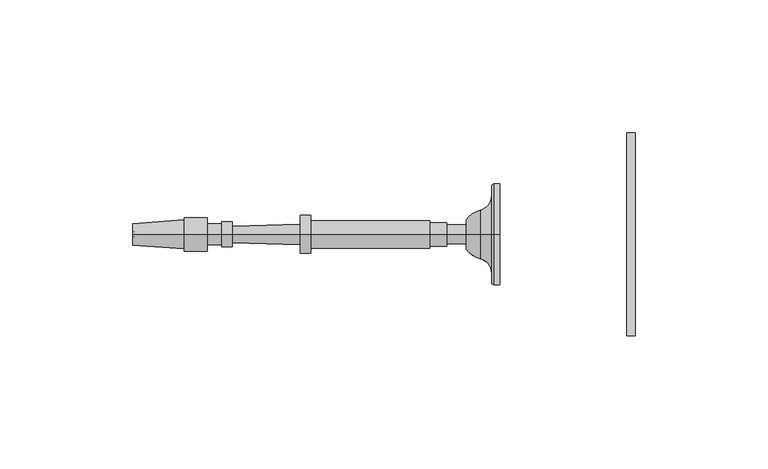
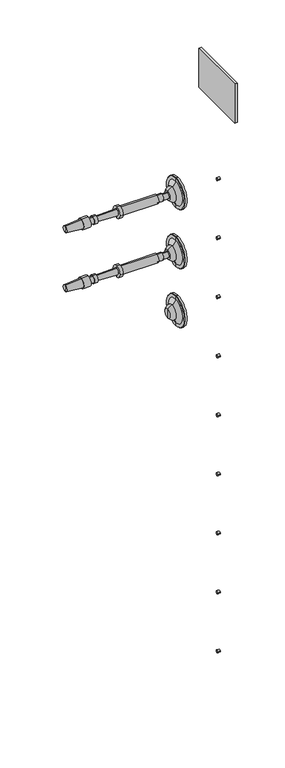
"""IFC4 building model written with IfcOpenShell, lengths in millimetres: railing geometry, RAILEASY CABLE RAILING CORNER TENSIONERS STAIR."""

from ifc_helpers import new_model, si_unit, point, frame, frame_2d, origin, place, context, project, spatial, polyline, circle_curve, ellipse_curve, trimmed, segment, composite_curve, outline, extrude, source, transform, mapped, element, save
from ifc_brep_helpers import plane_surface, cylinder_surface, revolved_surface, advanced_brep


def railing_6aa3b354(model_context):
    return source(origin(), model_context, "Body", "SolidModel", [
        extrude(outline(polyline([(4095.9188898, 20351.1866843), (4095.9188898, 20274.9866843), (4092.7438898, 20274.9866843), (4092.7438898, 20351.1866843), (4095.9188898, 20351.1866843)])), frame((0.0, 0.0, 33390.9789063), z_axis=(0.0, 0.0, 1.0), x_axis=(1.0, 0.0, 0.0)), (0.0, 0.0, 1.0), 50.8),
        extrude(outline(composite_curve([segment(trimmed(circle_curve(frame_2d((20313.0866843, 33295.7289062)), 1.5379197), [point((20311.5487645, 33295.7289062))], [point((20314.624604, 33295.7289062))], False, "CARTESIAN"), True, "CONTINUOUS"), segment(trimmed(circle_curve(frame_2d((20313.0866843, 33295.7289062)), 1.5379197), [point((20314.624604, 33295.7289062))], [point((20311.5487645, 33295.7289062))], False, "CARTESIAN"), True, "CONTINUOUS")], self_intersect=False)), frame((4092.7438898, 0.0, 0.0), z_axis=(1.0, 0.0, 0.0), x_axis=(0.0, 1.0, 0.0)), (0.0, 0.0, 1.0), 3.175),
        extrude(outline(composite_curve([segment(trimmed(circle_curve(frame_2d((20313.0866843, 33219.5289063)), 1.5379197), [point((20311.5487645, 33219.5289063))], [point((20314.624604, 33219.5289063))], False, "CARTESIAN"), True, "CONTINUOUS"), segment(trimmed(circle_curve(frame_2d((20313.0866843, 33219.5289063)), 1.5379197), [point((20314.624604, 33219.5289063))], [point((20311.5487645, 33219.5289063))], False, "CARTESIAN"), True, "CONTINUOUS")], self_intersect=False)), frame((4092.7438898, 0.0, 0.0), z_axis=(1.0, 0.0, 0.0), x_axis=(0.0, 1.0, 0.0)), (0.0, 0.0, 1.0), 3.175),
        extrude(outline(composite_curve([segment(trimmed(circle_curve(frame_2d((20313.0866843, 33143.3289062)), 1.5379197), [point((20311.5487645, 33143.3289062))], [point((20314.624604, 33143.3289062))], False, "CARTESIAN"), True, "CONTINUOUS"), segment(trimmed(circle_curve(frame_2d((20313.0866843, 33143.3289062)), 1.5379197), [point((20314.624604, 33143.3289062))], [point((20311.5487645, 33143.3289062))], False, "CARTESIAN"), True, "CONTINUOUS")], self_intersect=False)), frame((4092.7438898, 0.0, 0.0), z_axis=(1.0, 0.0, 0.0), x_axis=(0.0, 1.0, 0.0)), (0.0, 0.0, 1.0), 3.175),
        extrude(outline(composite_curve([segment(trimmed(circle_curve(frame_2d((20313.0866843, 33067.1289062)), 1.5379197), [point((20311.5487645, 33067.1289062))], [point((20314.624604, 33067.1289062))], False, "CARTESIAN"), True, "CONTINUOUS"), segment(trimmed(circle_curve(frame_2d((20313.0866843, 33067.1289062)), 1.5379197), [point((20314.624604, 33067.1289062))], [point((20311.5487645, 33067.1289062))], False, "CARTESIAN"), True, "CONTINUOUS")], self_intersect=False)), frame((4092.7438898, 0.0, 0.0), z_axis=(1.0, 0.0, 0.0), x_axis=(0.0, 1.0, 0.0)), (0.0, 0.0, 1.0), 3.175),
        extrude(outline(composite_curve([segment(trimmed(circle_curve(frame_2d((20313.0866843, 32990.9289062)), 1.5379197), [point((20311.5487645, 32990.9289062))], [point((20314.624604, 32990.9289062))], False, "CARTESIAN"), True, "CONTINUOUS"), segment(trimmed(circle_curve(frame_2d((20313.0866843, 32990.9289062)), 1.5379197), [point((20314.624604, 32990.9289062))], [point((20311.5487645, 32990.9289062))], False, "CARTESIAN"), True, "CONTINUOUS")], self_intersect=False)), frame((4092.7438898, 0.0, 0.0), z_axis=(1.0, 0.0, 0.0), x_axis=(0.0, 1.0, 0.0)), (0.0, 0.0, 1.0), 3.175),
        extrude(outline(composite_curve([segment(trimmed(circle_curve(frame_2d((20313.0866843, 32914.7289062)), 1.5379197), [point((20311.5487645, 32914.7289062))], [point((20314.624604, 32914.7289062))], False, "CARTESIAN"), True, "CONTINUOUS"), segment(trimmed(circle_curve(frame_2d((20313.0866843, 32914.7289062)), 1.5379197), [point((20314.624604, 32914.7289062))], [point((20311.5487645, 32914.7289062))], False, "CARTESIAN"), True, "CONTINUOUS")], self_intersect=False)), frame((4092.7438898, 0.0, 0.0), z_axis=(1.0, 0.0, 0.0), x_axis=(0.0, 1.0, 0.0)), (0.0, 0.0, 1.0), 3.175),
        extrude(outline(composite_curve([segment(trimmed(circle_curve(frame_2d((20313.0866843, 32838.5289063)), 1.5379197), [point((20311.5487645, 32838.5289063))], [point((20314.624604, 32838.5289063))], False, "CARTESIAN"), True, "CONTINUOUS"), segment(trimmed(circle_curve(frame_2d((20313.0866843, 32838.5289063)), 1.5379197), [point((20314.624604, 32838.5289063))], [point((20311.5487645, 32838.5289063))], False, "CARTESIAN"), True, "CONTINUOUS")], self_intersect=False)), frame((4092.7438898, 0.0, 0.0), z_axis=(1.0, 0.0, 0.0), x_axis=(0.0, 1.0, 0.0)), (0.0, 0.0, 1.0), 3.175),
        extrude(outline(composite_curve([segment(trimmed(circle_curve(frame_2d((20313.0866843, 32762.3289062)), 1.5379197), [point((20311.5487645, 32762.3289062))], [point((20314.624604, 32762.3289062))], False, "CARTESIAN"), True, "CONTINUOUS"), segment(trimmed(circle_curve(frame_2d((20313.0866843, 32762.3289062)), 1.5379197), [point((20314.624604, 32762.3289062))], [point((20311.5487645, 32762.3289062))], False, "CARTESIAN"), True, "CONTINUOUS")], self_intersect=False)), frame((4092.7438898, 0.0, 0.0), z_axis=(1.0, 0.0, 0.0), x_axis=(0.0, 1.0, 0.0)), (0.0, 0.0, 1.0), 3.175),
        extrude(outline(composite_curve([segment(trimmed(circle_curve(frame_2d((20313.0866843, 32686.1289062)), 1.5379197), [point((20311.5487645, 32686.1289062))], [point((20314.624604, 32686.1289062))], False, "CARTESIAN"), True, "CONTINUOUS"), segment(trimmed(circle_curve(frame_2d((20313.0866843, 32686.1289062)), 1.5379197), [point((20314.624604, 32686.1289062))], [point((20311.5487645, 32686.1289062))], False, "CARTESIAN"), True, "CONTINUOUS")], self_intersect=False)), frame((4092.7438898, 0.0, 0.0), z_axis=(1.0, 0.0, 0.0), x_axis=(0.0, 1.0, 0.0)), (0.0, 0.0, 1.0), 3.175),
        advanced_brep(
        [(4045.1015906, 20313.0866843, 33296.0001631), (4045.1015906, 20313.0866843, 33276.9501631), (4045.1015906, 20313.0866843, 33315.0501631), (4032.408954, 20313.0866843, 33290.4769785), (4032.408954, 20313.0866843, 33296.0001631), (4032.408954, 20313.0866843, 33301.5233478), (4037.6850504, 20313.0866843, 33286.8720381), (4037.6850504, 20313.0866843, 33305.1282881), (4042.0506754, 20313.0866843, 33281.2458254), (4042.0506754, 20313.0866843, 33310.7545009), (4042.0506754, 20313.0866843, 33277.3762941), (4042.0506754, 20313.0866843, 33314.6240321), (4042.7203406, 20313.0866843, 33276.9501631), (4042.7203406, 20313.0866843, 33315.0501631)],
        [
            (0, 1),
            (1, 2, circle_curve(frame((4045.1015906, 20313.0866843, 33296.0001631), z_axis=(1.0, 0.0, 0.0), x_axis=(0.0, 0.0, 1.0)), 19.05)),
            (2, 0),
            (2, 1, circle_curve(frame((4045.1015906, 20313.0866843, 33296.0001631), z_axis=(1.0, 0.0, 0.0), x_axis=(0.0, 0.0, 1.0)), 19.05)),
            (3, 4),
            (4, 5),
            (5, 3, circle_curve(frame((4032.408954, 20313.0866843, 33296.0001631), z_axis=(-1.0, 0.0, 0.0), x_axis=(0.0, 0.0, 1.0)), 5.5231846)),
            (3, 5, circle_curve(frame((4032.408954, 20313.0866843, 33296.0001631), z_axis=(-1.0, 0.0, 0.0), x_axis=(0.0, 0.0, 1.0)), 5.5231846)),
            (6, 3, circle_curve(frame((4040.0094591, 20313.0866843, 33295.9374304), z_axis=(0.0, 1.0, 0.0), x_axis=(-1.0, 0.0, 0.0)), 9.3586438)),
            (5, 7, circle_curve(frame((4040.0094591, 20313.0866843, 33296.0628958), z_axis=(0.0, 1.0, 0.0), x_axis=(-1.0, 0.0, 0.0)), 9.3586438)),
            (7, 6, circle_curve(frame((4037.6850504, 20313.0866843, 33296.0001631), z_axis=(-1.0, 0.0, 0.0), x_axis=(0.0, 0.0, 1.0)), 9.128125)),
            (6, 7, circle_curve(frame((4037.6850504, 20313.0866843, 33296.0001631), z_axis=(-1.0, 0.0, 0.0), x_axis=(0.0, 0.0, 1.0)), 9.128125)),
            (8, 6, circle_curve(frame((4036.2424634, 20313.0866843, 33281.2458254), z_axis=(0.0, -1.0, 0.0), x_axis=(-1.0, 0.0, 0.0)), 5.8082121)),
            (7, 9, circle_curve(frame((4036.2424634, 20313.0866843, 33310.7545009), z_axis=(0.0, -1.0, 0.0), x_axis=(-1.0, 0.0, 0.0)), 5.8082121)),
            (9, 8, circle_curve(frame((4042.0506754, 20313.0866843, 33296.0001631), z_axis=(-1.0, 0.0, 0.0), x_axis=(0.0, 0.0, 1.0)), 14.7543378)),
            (8, 9, circle_curve(frame((4042.0506754, 20313.0866843, 33296.0001631), z_axis=(-1.0, 0.0, 0.0), x_axis=(0.0, 0.0, 1.0)), 14.7543378)),
            (10, 8),
            (9, 11),
            (11, 10, circle_curve(frame((4042.0506754, 20313.0866843, 33296.0001631), z_axis=(-1.0, 0.0, 0.0), x_axis=(0.0, 0.0, 1.0)), 18.623869)),
            (10, 11, circle_curve(frame((4042.0506754, 20313.0866843, 33296.0001631), z_axis=(-1.0, 0.0, 0.0), x_axis=(0.0, 0.0, 1.0)), 18.623869)),
            (12, 10),
            (11, 13),
            (13, 12, circle_curve(frame((4042.7203406, 20313.0866843, 33296.0001631), z_axis=(-1.0, 0.0, 0.0), x_axis=(0.0, 0.0, 1.0)), 19.05)),
            (12, 13, circle_curve(frame((4042.7203406, 20313.0866843, 33296.0001631), z_axis=(-1.0, 0.0, 0.0), x_axis=(0.0, 0.0, 1.0)), 19.05)),
            (1, 12),
            (13, 2),
        ],
        [
            plane_surface(frame((4045.1015906, 20313.0866843, 33296.0001631), z_axis=(1.0, 0.0, 0.0), x_axis=(0.0, 0.0, 1.0))),
            plane_surface(frame((4032.408954, 20313.0866843, 33296.0001631), z_axis=(-1.0, 0.0, 0.0), x_axis=(0.0, 0.0, 1.0))),
            revolved_surface(trimmed(ellipse_curve(frame((4040.0094591, 20313.0866843, 33296.0628958), z_axis=(0.0, 1.0, 0.0), x_axis=(-1.0, 0.0, 0.0)), 9.3586438, 9.3586438), [point((4032.408954, 20313.0866843, 33301.5233478))], [point((4037.6850504, 20313.0866843, 33305.1282881))], True, "CARTESIAN"), (4045.1015906, 20313.0866843, 33296.0001631), (1.0, 0.0, 0.0)),
            revolved_surface(trimmed(ellipse_curve(frame((4036.2424634, 20313.0866843, 33310.7545009), z_axis=(0.0, -1.0, 0.0), x_axis=(-1.0, 0.0, 0.0)), 5.8082121, 5.8082121), [point((4037.6850504, 20313.0866843, 33305.1282881))], [point((4042.0506754, 20313.0866843, 33310.7545009))], True, "CARTESIAN"), (4045.1015906, 20313.0866843, 33296.0001631), (1.0, 0.0, 0.0)),
            plane_surface(frame((4042.0506754, 20313.0866843, 33296.0001631), z_axis=(-1.0, 0.0, 0.0), x_axis=(0.0, 0.0, 1.0))),
            revolved_surface(polyline([(4042.0506754, 20313.0866843, 33314.6240321), (4042.7203406, 20313.0866843, 33315.0501631)]), (4045.1015906, 20313.0866843, 33296.0001631), (1.0, 0.0, 0.0)),
            cylinder_surface(frame((4045.1015906, 20313.0866843, 33296.0001631), z_axis=(1.0, 0.0, 0.0), x_axis=(0.0, 0.0, 1.0)), 19.05),
        ],
        [
            (0, [[1, 2, 3]]),
            (0, [[-3, 4, -1]]),
            (1, [[5, 6, 7]]),
            (1, [[-6, -5, 8]]),
            (2, [[9, -7, 10, 11]]),
            (2, [[-10, -8, -9, 12]]),
            (3, [[13, -11, 14, 15]]),
            (3, [[-14, -12, -13, 16]]),
            (4, [[17, -15, 18, 19]]),
            (4, [[-18, -16, -17, 20]]),
            (5, [[21, -19, 22, 23]]),
            (5, [[-22, -20, -21, 24]]),
            (6, [[25, -23, 26, -2]]),
            (6, [[-26, -24, -25, -4]]),
        ],
    ),
        advanced_brep(
        [(4032.408954, 20313.0866843, 33292.4282881), (4032.408954, 20313.0866843, 33299.5720381), (4032.408954, 20313.0866843, 33296.0001631), (3907.4650648, 20313.0866843, 33296.0001631), (3907.1694004, 20313.0866843, 33300.0246235), (3907.1694004, 20313.0866843, 33291.9757028), (3926.5127644, 20313.0866843, 33301.445719), (3926.5127644, 20313.0866843, 33290.5546072), (3926.5127644, 20313.0866843, 33302.3386877), (3926.5127644, 20313.0866843, 33289.6616385), (3935.1447956, 20313.0866843, 33302.3386877), (3935.1447956, 20313.0866843, 33289.6616385), (3935.1447956, 20313.0866843, 33299.9574377), (3935.1447956, 20313.0866843, 33292.0428885), (3940.5026081, 20313.0866843, 33299.9574377), (3940.5026081, 20313.0866843, 33292.0428885), (3940.5026081, 20313.0866843, 33300.7511877), (3940.5026081, 20313.0866843, 33291.2491385), (3944.5705769, 20313.0866843, 33300.7511877), (3944.5705769, 20313.0866843, 33291.2491385), (3944.614664, 20313.0866843, 33299.1643), (3944.614664, 20313.0866843, 33292.8360262), (3970.0048672, 20313.0866843, 33299.8696944), (3970.0048672, 20313.0866843, 33292.1306319), (3970.0048672, 20313.0866843, 33303.1439131), (3970.0048672, 20313.0866843, 33288.8564131), (3973.9736172, 20313.0866843, 33303.1439131), (3973.9736172, 20313.0866843, 33288.8564131), (3973.9736172, 20313.0866843, 33301.1595381), (3973.9736172, 20313.0866843, 33290.8407881), (4018.7212735, 20313.0866843, 33301.1595381), (4018.7212735, 20313.0866843, 33290.8407881), (4018.7212735, 20313.0866843, 33300.3657881), (4018.7212735, 20313.0866843, 33291.6345381), (4025.0712735, 20313.0866843, 33300.3657881), (4025.0712735, 20313.0866843, 33291.6345381), (4025.0712735, 20313.0866843, 33299.5720381), (4025.0712735, 20313.0866843, 33292.4282881)],
        [
            (0, 1, circle_curve(frame((4032.408954, 20313.0866843, 33296.0001631), z_axis=(1.0, 0.0, 0.0), x_axis=(0.0, 0.0, 1.0000000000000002)), 3.571875)),
            (1, 2),
            (2, 0),
            (1, 0, circle_curve(frame((4032.408954, 20313.0866843, 33296.0001631), z_axis=(1.0, 0.0, 0.0), x_axis=(0.0, 0.0, 1.0000000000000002)), 3.571875)),
            (3, 4),
            (4, 5, circle_curve(frame((3907.1694004, 20313.0866843, 33296.0001631), z_axis=(-1.0, 0.0, 0.0), x_axis=(0.0, 0.0, 1.0000000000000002)), 4.0244604)),
            (5, 3),
            (5, 4, circle_curve(frame((3907.1694004, 20313.0866843, 33296.0001631), z_axis=(-1.0, 0.0, 0.0), x_axis=(0.0, 0.0, 1.0000000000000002)), 4.0244604)),
            (4, 6),
            (6, 7, circle_curve(frame((3926.5127644, 20313.0866843, 33296.0001631), z_axis=(-1.0, 0.0, 0.0), x_axis=(0.0, 0.0, 1.0000000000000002)), 5.4455559)),
            (7, 5),
            (7, 6, circle_curve(frame((3926.5127644, 20313.0866843, 33296.0001631), z_axis=(-1.0, 0.0, 0.0), x_axis=(0.0, 0.0, 1.0000000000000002)), 5.4455559)),
            (6, 8),
            (8, 9, circle_curve(frame((3926.5127644, 20313.0866843, 33296.0001631), z_axis=(-1.0, 0.0, 0.0), x_axis=(0.0, 0.0, 1.0000000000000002)), 6.3385246)),
            (9, 7),
            (9, 8, circle_curve(frame((3926.5127644, 20313.0866843, 33296.0001631), z_axis=(-1.0, 0.0, 0.0), x_axis=(0.0, 0.0, 1.0000000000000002)), 6.3385246)),
            (8, 10),
            (10, 11, circle_curve(frame((3935.1447956, 20313.0866843, 33296.0001631), z_axis=(-1.0, 0.0, 0.0), x_axis=(0.0, 0.0, 1.0000000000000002)), 6.3385246)),
            (11, 9),
            (11, 10, circle_curve(frame((3935.1447956, 20313.0866843, 33296.0001631), z_axis=(-1.0, 0.0, 0.0), x_axis=(0.0, 0.0, 1.0000000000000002)), 6.3385246)),
            (10, 12),
            (12, 13, circle_curve(frame((3935.1447956, 20313.0866843, 33296.0001631), z_axis=(-1.0, 0.0, 0.0), x_axis=(0.0, 0.0, 1.0000000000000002)), 3.9572746)),
            (13, 11),
            (13, 12, circle_curve(frame((3935.1447956, 20313.0866843, 33296.0001631), z_axis=(-1.0, 0.0, 0.0), x_axis=(0.0, 0.0, 1.0000000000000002)), 3.9572746)),
            (12, 14),
            (14, 15, circle_curve(frame((3940.5026081, 20313.0866843, 33296.0001631), z_axis=(-1.0, 0.0, 0.0), x_axis=(0.0, 0.0, 1.0000000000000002)), 3.9572746)),
            (15, 13),
            (15, 14, circle_curve(frame((3940.5026081, 20313.0866843, 33296.0001631), z_axis=(-1.0, 0.0, 0.0), x_axis=(0.0, 0.0, 1.0000000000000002)), 3.9572746)),
            (14, 16),
            (16, 17, circle_curve(frame((3940.5026081, 20313.0866843, 33296.0001631), z_axis=(-1.0, 0.0, 0.0), x_axis=(0.0, 0.0, 1.0000000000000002)), 4.7510246)),
            (17, 15),
            (17, 16, circle_curve(frame((3940.5026081, 20313.0866843, 33296.0001631), z_axis=(-1.0, 0.0, 0.0), x_axis=(0.0, 0.0, 1.0000000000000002)), 4.7510246)),
            (16, 18),
            (18, 19, circle_curve(frame((3944.5705769, 20313.0866843, 33296.0001631), z_axis=(-1.0, 0.0, 0.0), x_axis=(0.0, 0.0, 1.0000000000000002)), 4.7510246)),
            (19, 17),
            (19, 18, circle_curve(frame((3944.5705769, 20313.0866843, 33296.0001631), z_axis=(-1.0, 0.0, 0.0), x_axis=(0.0, 0.0, 1.0000000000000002)), 4.7510246)),
            (18, 20),
            (20, 21, circle_curve(frame((3944.614664, 20313.0866843, 33296.0001631), z_axis=(-1.0, 0.0, 0.0), x_axis=(0.0, 0.0, 1.0000000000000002)), 3.1641369)),
            (21, 19),
            (21, 20, circle_curve(frame((3944.614664, 20313.0866843, 33296.0001631), z_axis=(-1.0, 0.0, 0.0), x_axis=(0.0, 0.0, 1.0000000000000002)), 3.1641369)),
            (20, 22),
            (22, 23, circle_curve(frame((3970.0048672, 20313.0866843, 33296.0001631), z_axis=(-1.0, 0.0, 0.0), x_axis=(0.0, 0.0, 1.0000000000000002)), 3.8695313)),
            (23, 21),
            (23, 22, circle_curve(frame((3970.0048672, 20313.0866843, 33296.0001631), z_axis=(-1.0, 0.0, 0.0), x_axis=(0.0, 0.0, 1.0000000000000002)), 3.8695313)),
            (22, 24),
            (24, 25, circle_curve(frame((3970.0048672, 20313.0866843, 33296.0001631), z_axis=(-1.0, 0.0, 0.0), x_axis=(0.0, 0.0, 1.0000000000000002)), 7.14375)),
            (25, 23),
            (25, 24, circle_curve(frame((3970.0048672, 20313.0866843, 33296.0001631), z_axis=(-1.0, 0.0, 0.0), x_axis=(0.0, 0.0, 1.0000000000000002)), 7.14375)),
            (24, 26),
            (26, 27, circle_curve(frame((3973.9736172, 20313.0866843, 33296.0001631), z_axis=(-1.0, 0.0, 0.0), x_axis=(0.0, 0.0, 1.0000000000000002)), 7.14375)),
            (27, 25),
            (27, 26, circle_curve(frame((3973.9736172, 20313.0866843, 33296.0001631), z_axis=(-1.0, 0.0, 0.0), x_axis=(0.0, 0.0, 1.0000000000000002)), 7.14375)),
            (26, 28),
            (28, 29, circle_curve(frame((3973.9736172, 20313.0866843, 33296.0001631), z_axis=(-1.0, 0.0, 0.0), x_axis=(0.0, 0.0, 1.0000000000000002)), 5.159375)),
            (29, 27),
            (29, 28, circle_curve(frame((3973.9736172, 20313.0866843, 33296.0001631), z_axis=(-1.0, 0.0, 0.0), x_axis=(0.0, 0.0, 1.0000000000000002)), 5.159375)),
            (28, 30),
            (30, 31, circle_curve(frame((4018.7212735, 20313.0866843, 33296.0001631), z_axis=(-1.0, 0.0, 0.0), x_axis=(0.0, 0.0, 1.0000000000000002)), 5.159375)),
            (31, 29),
            (31, 30, circle_curve(frame((4018.7212735, 20313.0866843, 33296.0001631), z_axis=(-1.0, 0.0, 0.0), x_axis=(0.0, 0.0, 1.0000000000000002)), 5.159375)),
            (30, 32),
            (32, 33, circle_curve(frame((4018.7212735, 20313.0866843, 33296.0001631), z_axis=(-1.0, 0.0, 0.0), x_axis=(0.0, 0.0, 1.0000000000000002)), 4.365625)),
            (33, 31),
            (33, 32, circle_curve(frame((4018.7212735, 20313.0866843, 33296.0001631), z_axis=(-1.0, 0.0, 0.0), x_axis=(0.0, 0.0, 1.0000000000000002)), 4.365625)),
            (32, 34),
            (34, 35, circle_curve(frame((4025.0712735, 20313.0866843, 33296.0001631), z_axis=(-1.0, 0.0, 0.0), x_axis=(0.0, 0.0, 1.0000000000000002)), 4.365625)),
            (35, 33),
            (35, 34, circle_curve(frame((4025.0712735, 20313.0866843, 33296.0001631), z_axis=(-1.0, 0.0, 0.0), x_axis=(0.0, 0.0, 1.0000000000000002)), 4.365625)),
            (34, 36),
            (36, 37, circle_curve(frame((4025.0712735, 20313.0866843, 33296.0001631), z_axis=(-1.0, 0.0, 0.0), x_axis=(0.0, 0.0, 1.0000000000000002)), 3.571875)),
            (37, 35),
            (37, 36, circle_curve(frame((4025.0712735, 20313.0866843, 33296.0001631), z_axis=(-1.0, 0.0, 0.0), x_axis=(0.0, 0.0, 1.0000000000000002)), 3.571875)),
            (36, 1),
            (0, 37),
        ],
        [
            plane_surface(frame((4032.408954, 20313.0866843, 33296.0001631), z_axis=(1.0, 0.0, 0.0), x_axis=(0.0, 0.0, 1.0))),
            revolved_surface(polyline([(3907.1694004, 20313.0866843, 33300.0246235), (3907.4650648, 20313.0866843, 33296.0001631)]), (3907.4650648, 20313.0866843, 33296.0001631), (-1.0, 0.0, 0.0)),
            revolved_surface(polyline([(3926.5127644, 20313.0866843, 33301.445719), (3907.1694004, 20313.0866843, 33300.0246235)]), (3907.4650648, 20313.0866843, 33296.0001631), (-1.0, 0.0, 0.0)),
            plane_surface(frame((3926.5127644, 20313.0866843, 33296.0001631), z_axis=(-1.0, 0.0, 0.0), x_axis=(0.0, 0.0, 1.0))),
            cylinder_surface(frame((3907.4650648, 20313.0866843, 33296.0001631), z_axis=(-1.0, 0.0, 0.0), x_axis=(0.0, 0.0, 1.0000000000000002)), 6.3385246),
            plane_surface(frame((3935.1447956, 20313.0866843, 33296.0001631), z_axis=(1.0, 0.0, 0.0), x_axis=(0.0, 0.0, 1.0))),
            cylinder_surface(frame((3907.4650648, 20313.0866843, 33296.0001631), z_axis=(-1.0, 0.0, 0.0), x_axis=(0.0, 0.0, 1.0000000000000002)), 3.9572746),
            plane_surface(frame((3940.5026081, 20313.0866843, 33296.0001631), z_axis=(-1.0, 0.0, 0.0), x_axis=(0.0, 0.0, 1.0))),
            cylinder_surface(frame((3907.4650648, 20313.0866843, 33296.0001631), z_axis=(-1.0, 0.0, 0.0), x_axis=(0.0, 0.0, 1.0000000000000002)), 4.7510246),
            plane_surface(frame((3944.614664, 20313.0866843, 33296.0001631), z_axis=(1.0, 0.0, 0.0), x_axis=(0.0, 0.0, 1.0))),
            revolved_surface(polyline([(3970.0048672, 20313.0866843, 33299.8696944), (3944.614664, 20313.0866843, 33299.1643)]), (3907.4650648, 20313.0866843, 33296.0001631), (-1.0, 0.0, 0.0)),
            plane_surface(frame((3970.0048672, 20313.0866843, 33296.0001631), z_axis=(-1.0, 0.0, 0.0), x_axis=(0.0, 0.0, 1.0))),
            cylinder_surface(frame((3907.4650648, 20313.0866843, 33296.0001631), z_axis=(-1.0, 0.0, 0.0), x_axis=(0.0, 0.0, 1.0000000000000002)), 7.14375),
            plane_surface(frame((3973.9736172, 20313.0866843, 33296.0001631), z_axis=(1.0, 0.0, 0.0), x_axis=(0.0, 0.0, 1.0))),
            cylinder_surface(frame((3907.4650648, 20313.0866843, 33296.0001631), z_axis=(-1.0, 0.0, 0.0), x_axis=(0.0, 0.0, 1.0000000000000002)), 5.159375),
            plane_surface(frame((4018.7212735, 20313.0866843, 33296.0001631), z_axis=(1.0, 0.0, 0.0), x_axis=(0.0, 0.0, 1.0))),
            cylinder_surface(frame((3907.4650648, 20313.0866843, 33296.0001631), z_axis=(-1.0, 0.0, 0.0), x_axis=(0.0, 0.0, 1.0000000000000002)), 4.365625),
            plane_surface(frame((4025.0712735, 20313.0866843, 33296.0001631), z_axis=(1.0, 0.0, 0.0), x_axis=(0.0, 0.0, 1.0))),
            cylinder_surface(frame((3907.4650648, 20313.0866843, 33296.0001631), z_axis=(-1.0, 0.0, 0.0), x_axis=(0.0, 0.0, 1.0000000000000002)), 3.571875),
        ],
        [
            (0, [[1, 2, 3]]),
            (0, [[4, -3, -2]]),
            (1, [[5, 6, 7]]),
            (1, [[-7, 8, -5]]),
            (2, [[-6, 9, 10, 11]]),
            (2, [[-8, -11, 12, -9]]),
            (3, [[-10, 13, 14, 15]]),
            (3, [[-12, -15, 16, -13]]),
            (4, [[-14, 17, 18, 19]]),
            (4, [[-16, -19, 20, -17]]),
            (5, [[-18, 21, 22, 23]]),
            (5, [[-20, -23, 24, -21]]),
            (6, [[-22, 25, 26, 27]]),
            (6, [[-24, -27, 28, -25]]),
            (7, [[-26, 29, 30, 31]]),
            (7, [[-28, -31, 32, -29]]),
            (8, [[-30, 33, 34, 35]]),
            (8, [[-32, -35, 36, -33]]),
            (9, [[-34, 37, 38, 39]]),
            (9, [[-36, -39, 40, -37]]),
            (10, [[-38, 41, 42, 43]]),
            (10, [[-40, -43, 44, -41]]),
            (11, [[-42, 45, 46, 47]]),
            (11, [[-44, -47, 48, -45]]),
            (12, [[-46, 49, 50, 51]]),
            (12, [[-48, -51, 52, -49]]),
            (13, [[-50, 53, 54, 55]]),
            (13, [[-52, -55, 56, -53]]),
            (14, [[-54, 57, 58, 59]]),
            (14, [[-56, -59, 60, -57]]),
            (15, [[-58, 61, 62, 63]]),
            (15, [[-60, -63, 64, -61]]),
            (16, [[-62, 65, 66, 67]]),
            (16, [[-64, -67, 68, -65]]),
            (17, [[-66, 69, 70, 71]]),
            (17, [[-68, -71, 72, -69]]),
            (18, [[-70, 73, -1, 74]]),
            (18, [[-72, -74, -4, -73]]),
        ],
    ),
        advanced_brep(
        [(4045.1015906, 20313.0866843, 33219.8001631), (4045.1015906, 20313.0866843, 33200.7501631), (4045.1015906, 20313.0866843, 33238.8501631), (4032.408954, 20313.0866843, 33214.2769785), (4032.408954, 20313.0866843, 33219.8001631), (4032.408954, 20313.0866843, 33225.3233478), (4037.6850504, 20313.0866843, 33210.6720381), (4037.6850504, 20313.0866843, 33228.9282881), (4042.0506754, 20313.0866843, 33205.0458254), (4042.0506754, 20313.0866843, 33234.5545009), (4042.0506754, 20313.0866843, 33201.1762941), (4042.0506754, 20313.0866843, 33238.4240321), (4042.7203406, 20313.0866843, 33200.7501631), (4042.7203406, 20313.0866843, 33238.8501631)],
        [
            (0, 1),
            (1, 2, circle_curve(frame((4045.1015906, 20313.0866843, 33219.8001631), z_axis=(1.0, 0.0, 0.0), x_axis=(0.0, 0.0, 1.0)), 19.05)),
            (2, 0),
            (2, 1, circle_curve(frame((4045.1015906, 20313.0866843, 33219.8001631), z_axis=(1.0, 0.0, 0.0), x_axis=(0.0, 0.0, 1.0)), 19.05)),
            (3, 4),
            (4, 5),
            (5, 3, circle_curve(frame((4032.408954, 20313.0866843, 33219.8001631), z_axis=(-1.0, 0.0, 0.0), x_axis=(0.0, 0.0, 1.0)), 5.5231846)),
            (3, 5, circle_curve(frame((4032.408954, 20313.0866843, 33219.8001631), z_axis=(-1.0, 0.0, 0.0), x_axis=(0.0, 0.0, 1.0)), 5.5231846)),
            (6, 3, circle_curve(frame((4040.0094591, 20313.0866843, 33219.7374304), z_axis=(0.0, 1.0, 0.0), x_axis=(-1.0, 0.0, 0.0)), 9.3586438)),
            (5, 7, circle_curve(frame((4040.0094591, 20313.0866843, 33219.8628958), z_axis=(0.0, 1.0, 0.0), x_axis=(-1.0, 0.0, 0.0)), 9.3586438)),
            (7, 6, circle_curve(frame((4037.6850504, 20313.0866843, 33219.8001631), z_axis=(-1.0, 0.0, 0.0), x_axis=(0.0, 0.0, 1.0)), 9.128125)),
            (6, 7, circle_curve(frame((4037.6850504, 20313.0866843, 33219.8001631), z_axis=(-1.0, 0.0, 0.0), x_axis=(0.0, 0.0, 1.0)), 9.128125)),
            (8, 6, circle_curve(frame((4036.2424634, 20313.0866843, 33205.0458254), z_axis=(0.0, -1.0, 0.0), x_axis=(-1.0, 0.0, 0.0)), 5.8082121)),
            (7, 9, circle_curve(frame((4036.2424634, 20313.0866843, 33234.5545009), z_axis=(0.0, -1.0, 0.0), x_axis=(-1.0, 0.0, 0.0)), 5.8082121)),
            (9, 8, circle_curve(frame((4042.0506754, 20313.0866843, 33219.8001631), z_axis=(-1.0, 0.0, 0.0), x_axis=(0.0, 0.0, 1.0)), 14.7543378)),
            (8, 9, circle_curve(frame((4042.0506754, 20313.0866843, 33219.8001631), z_axis=(-1.0, 0.0, 0.0), x_axis=(0.0, 0.0, 1.0)), 14.7543378)),
            (10, 8),
            (9, 11),
            (11, 10, circle_curve(frame((4042.0506754, 20313.0866843, 33219.8001631), z_axis=(-1.0, 0.0, 0.0), x_axis=(0.0, 0.0, 1.0)), 18.623869)),
            (10, 11, circle_curve(frame((4042.0506754, 20313.0866843, 33219.8001631), z_axis=(-1.0, 0.0, 0.0), x_axis=(0.0, 0.0, 1.0)), 18.623869)),
            (12, 10),
            (11, 13),
            (13, 12, circle_curve(frame((4042.7203406, 20313.0866843, 33219.8001631), z_axis=(-1.0, 0.0, 0.0), x_axis=(0.0, 0.0, 1.0)), 19.05)),
            (12, 13, circle_curve(frame((4042.7203406, 20313.0866843, 33219.8001631), z_axis=(-1.0, 0.0, 0.0), x_axis=(0.0, 0.0, 1.0)), 19.05)),
            (1, 12),
            (13, 2),
        ],
        [
            plane_surface(frame((4045.1015906, 20313.0866843, 33219.8001631), z_axis=(1.0, 0.0, 0.0), x_axis=(0.0, 0.0, 1.0))),
            plane_surface(frame((4032.408954, 20313.0866843, 33219.8001631), z_axis=(-1.0, 0.0, 0.0), x_axis=(0.0, 0.0, 1.0))),
            revolved_surface(trimmed(ellipse_curve(frame((4040.0094591, 20313.0866843, 33219.8628958), z_axis=(0.0, 1.0, 0.0), x_axis=(-1.0, 0.0, 0.0)), 9.3586438, 9.3586438), [point((4032.408954, 20313.0866843, 33225.3233478))], [point((4037.6850504, 20313.0866843, 33228.9282881))], True, "CARTESIAN"), (4045.1015906, 20313.0866843, 33219.8001631), (1.0, 0.0, 0.0)),
            revolved_surface(trimmed(ellipse_curve(frame((4036.2424634, 20313.0866843, 33234.5545009), z_axis=(0.0, -1.0, 0.0), x_axis=(-1.0, 0.0, 0.0)), 5.8082121, 5.8082121), [point((4037.6850504, 20313.0866843, 33228.9282881))], [point((4042.0506754, 20313.0866843, 33234.5545009))], True, "CARTESIAN"), (4045.1015906, 20313.0866843, 33219.8001631), (1.0, 0.0, 0.0)),
            plane_surface(frame((4042.0506754, 20313.0866843, 33219.8001631), z_axis=(-1.0, 0.0, 0.0), x_axis=(0.0, 0.0, 1.0))),
            revolved_surface(polyline([(4042.0506754, 20313.0866843, 33238.4240321), (4042.7203406, 20313.0866843, 33238.8501631)]), (4045.1015906, 20313.0866843, 33219.8001631), (1.0, 0.0, 0.0)),
            cylinder_surface(frame((4045.1015906, 20313.0866843, 33219.8001631), z_axis=(1.0, 0.0, 0.0), x_axis=(0.0, 0.0, 1.0)), 19.05),
        ],
        [
            (0, [[1, 2, 3]]),
            (0, [[-3, 4, -1]]),
            (1, [[5, 6, 7]]),
            (1, [[-6, -5, 8]]),
            (2, [[9, -7, 10, 11]]),
            (2, [[-10, -8, -9, 12]]),
            (3, [[13, -11, 14, 15]]),
            (3, [[-14, -12, -13, 16]]),
            (4, [[17, -15, 18, 19]]),
            (4, [[-18, -16, -17, 20]]),
            (5, [[21, -19, 22, 23]]),
            (5, [[-22, -20, -21, 24]]),
            (6, [[25, -23, 26, -2]]),
            (6, [[-26, -24, -25, -4]]),
        ],
    ),
        advanced_brep(
        [(4032.408954, 20313.0866843, 33216.2282881), (4032.408954, 20313.0866843, 33223.3720381), (4032.408954, 20313.0866843, 33219.8001631), (3907.4650648, 20313.0866843, 33219.8001631), (3907.1694004, 20313.0866843, 33223.8246235), (3907.1694004, 20313.0866843, 33215.7757028), (3926.5127644, 20313.0866843, 33225.245719), (3926.5127644, 20313.0866843, 33214.3546072), (3926.5127644, 20313.0866843, 33226.1386877), (3926.5127644, 20313.0866843, 33213.4616385), (3935.1447956, 20313.0866843, 33226.1386877), (3935.1447956, 20313.0866843, 33213.4616385), (3935.1447956, 20313.0866843, 33223.7574377), (3935.1447956, 20313.0866843, 33215.8428885), (3940.5026081, 20313.0866843, 33223.7574377), (3940.5026081, 20313.0866843, 33215.8428885), (3940.5026081, 20313.0866843, 33224.5511877), (3940.5026081, 20313.0866843, 33215.0491385), (3944.5705769, 20313.0866843, 33224.5511877), (3944.5705769, 20313.0866843, 33215.0491385), (3944.614664, 20313.0866843, 33222.9643), (3944.614664, 20313.0866843, 33216.6360262), (3970.0048672, 20313.0866843, 33223.6696944), (3970.0048672, 20313.0866843, 33215.9306319), (3970.0048672, 20313.0866843, 33226.9439131), (3970.0048672, 20313.0866843, 33212.6564131), (3973.9736172, 20313.0866843, 33226.9439131), (3973.9736172, 20313.0866843, 33212.6564131), (3973.9736172, 20313.0866843, 33224.9595381), (3973.9736172, 20313.0866843, 33214.6407881), (4018.7212735, 20313.0866843, 33224.9595381), (4018.7212735, 20313.0866843, 33214.6407881), (4018.7212735, 20313.0866843, 33224.1657881), (4018.7212735, 20313.0866843, 33215.4345381), (4025.0712735, 20313.0866843, 33224.1657881), (4025.0712735, 20313.0866843, 33215.4345381), (4025.0712735, 20313.0866843, 33223.3720381), (4025.0712735, 20313.0866843, 33216.2282881)],
        [
            (0, 1, circle_curve(frame((4032.408954, 20313.0866843, 33219.8001631), z_axis=(1.0, 0.0, 0.0), x_axis=(0.0, 0.0, 1.0000000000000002)), 3.571875)),
            (1, 2),
            (2, 0),
            (1, 0, circle_curve(frame((4032.408954, 20313.0866843, 33219.8001631), z_axis=(1.0, 0.0, 0.0), x_axis=(0.0, 0.0, 1.0000000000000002)), 3.571875)),
            (3, 4),
            (4, 5, circle_curve(frame((3907.1694004, 20313.0866843, 33219.8001631), z_axis=(-1.0, 0.0, 0.0), x_axis=(0.0, 0.0, 1.0000000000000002)), 4.0244604)),
            (5, 3),
            (5, 4, circle_curve(frame((3907.1694004, 20313.0866843, 33219.8001631), z_axis=(-1.0, 0.0, 0.0), x_axis=(0.0, 0.0, 1.0000000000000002)), 4.0244604)),
            (4, 6),
            (6, 7, circle_curve(frame((3926.5127644, 20313.0866843, 33219.8001631), z_axis=(-1.0, 0.0, 0.0), x_axis=(0.0, 0.0, 1.0000000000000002)), 5.4455559)),
            (7, 5),
            (7, 6, circle_curve(frame((3926.5127644, 20313.0866843, 33219.8001631), z_axis=(-1.0, 0.0, 0.0), x_axis=(0.0, 0.0, 1.0000000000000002)), 5.4455559)),
            (6, 8),
            (8, 9, circle_curve(frame((3926.5127644, 20313.0866843, 33219.8001631), z_axis=(-1.0, 0.0, 0.0), x_axis=(0.0, 0.0, 1.0000000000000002)), 6.3385246)),
            (9, 7),
            (9, 8, circle_curve(frame((3926.5127644, 20313.0866843, 33219.8001631), z_axis=(-1.0, 0.0, 0.0), x_axis=(0.0, 0.0, 1.0000000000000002)), 6.3385246)),
            (8, 10),
            (10, 11, circle_curve(frame((3935.1447956, 20313.0866843, 33219.8001631), z_axis=(-1.0, 0.0, 0.0), x_axis=(0.0, 0.0, 1.0000000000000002)), 6.3385246)),
            (11, 9),
            (11, 10, circle_curve(frame((3935.1447956, 20313.0866843, 33219.8001631), z_axis=(-1.0, 0.0, 0.0), x_axis=(0.0, 0.0, 1.0000000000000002)), 6.3385246)),
            (10, 12),
            (12, 13, circle_curve(frame((3935.1447956, 20313.0866843, 33219.8001631), z_axis=(-1.0, 0.0, 0.0), x_axis=(0.0, 0.0, 1.0000000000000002)), 3.9572746)),
            (13, 11),
            (13, 12, circle_curve(frame((3935.1447956, 20313.0866843, 33219.8001631), z_axis=(-1.0, 0.0, 0.0), x_axis=(0.0, 0.0, 1.0000000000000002)), 3.9572746)),
            (12, 14),
            (14, 15, circle_curve(frame((3940.5026081, 20313.0866843, 33219.8001631), z_axis=(-1.0, 0.0, 0.0), x_axis=(0.0, 0.0, 1.0000000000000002)), 3.9572746)),
            (15, 13),
            (15, 14, circle_curve(frame((3940.5026081, 20313.0866843, 33219.8001631), z_axis=(-1.0, 0.0, 0.0), x_axis=(0.0, 0.0, 1.0000000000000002)), 3.9572746)),
            (14, 16),
            (16, 17, circle_curve(frame((3940.5026081, 20313.0866843, 33219.8001631), z_axis=(-1.0, 0.0, 0.0), x_axis=(0.0, 0.0, 1.0000000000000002)), 4.7510246)),
            (17, 15),
            (17, 16, circle_curve(frame((3940.5026081, 20313.0866843, 33219.8001631), z_axis=(-1.0, 0.0, 0.0), x_axis=(0.0, 0.0, 1.0000000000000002)), 4.7510246)),
            (16, 18),
            (18, 19, circle_curve(frame((3944.5705769, 20313.0866843, 33219.8001631), z_axis=(-1.0, 0.0, 0.0), x_axis=(0.0, 0.0, 1.0000000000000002)), 4.7510246)),
            (19, 17),
            (19, 18, circle_curve(frame((3944.5705769, 20313.0866843, 33219.8001631), z_axis=(-1.0, 0.0, 0.0), x_axis=(0.0, 0.0, 1.0000000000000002)), 4.7510246)),
            (18, 20),
            (20, 21, circle_curve(frame((3944.614664, 20313.0866843, 33219.8001631), z_axis=(-1.0, 0.0, 0.0), x_axis=(0.0, 0.0, 1.0000000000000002)), 3.1641369)),
            (21, 19),
            (21, 20, circle_curve(frame((3944.614664, 20313.0866843, 33219.8001631), z_axis=(-1.0, 0.0, 0.0), x_axis=(0.0, 0.0, 1.0000000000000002)), 3.1641369)),
            (20, 22),
            (22, 23, circle_curve(frame((3970.0048672, 20313.0866843, 33219.8001631), z_axis=(-1.0, 0.0, 0.0), x_axis=(0.0, 0.0, 1.0000000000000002)), 3.8695313)),
            (23, 21),
            (23, 22, circle_curve(frame((3970.0048672, 20313.0866843, 33219.8001631), z_axis=(-1.0, 0.0, 0.0), x_axis=(0.0, 0.0, 1.0000000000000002)), 3.8695313)),
            (22, 24),
            (24, 25, circle_curve(frame((3970.0048672, 20313.0866843, 33219.8001631), z_axis=(-1.0, 0.0, 0.0), x_axis=(0.0, 0.0, 1.0000000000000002)), 7.14375)),
            (25, 23),
            (25, 24, circle_curve(frame((3970.0048672, 20313.0866843, 33219.8001631), z_axis=(-1.0, 0.0, 0.0), x_axis=(0.0, 0.0, 1.0000000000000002)), 7.14375)),
            (24, 26),
            (26, 27, circle_curve(frame((3973.9736172, 20313.0866843, 33219.8001631), z_axis=(-1.0, 0.0, 0.0), x_axis=(0.0, 0.0, 1.0000000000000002)), 7.14375)),
            (27, 25),
            (27, 26, circle_curve(frame((3973.9736172, 20313.0866843, 33219.8001631), z_axis=(-1.0, 0.0, 0.0), x_axis=(0.0, 0.0, 1.0000000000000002)), 7.14375)),
            (26, 28),
            (28, 29, circle_curve(frame((3973.9736172, 20313.0866843, 33219.8001631), z_axis=(-1.0, 0.0, 0.0), x_axis=(0.0, 0.0, 1.0000000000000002)), 5.159375)),
            (29, 27),
            (29, 28, circle_curve(frame((3973.9736172, 20313.0866843, 33219.8001631), z_axis=(-1.0, 0.0, 0.0), x_axis=(0.0, 0.0, 1.0000000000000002)), 5.159375)),
            (28, 30),
            (30, 31, circle_curve(frame((4018.7212735, 20313.0866843, 33219.8001631), z_axis=(-1.0, 0.0, 0.0), x_axis=(0.0, 0.0, 1.0000000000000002)), 5.159375)),
            (31, 29),
            (31, 30, circle_curve(frame((4018.7212735, 20313.0866843, 33219.8001631), z_axis=(-1.0, 0.0, 0.0), x_axis=(0.0, 0.0, 1.0000000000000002)), 5.159375)),
            (30, 32),
            (32, 33, circle_curve(frame((4018.7212735, 20313.0866843, 33219.8001631), z_axis=(-1.0, 0.0, 0.0), x_axis=(0.0, 0.0, 1.0000000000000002)), 4.365625)),
            (33, 31),
            (33, 32, circle_curve(frame((4018.7212735, 20313.0866843, 33219.8001631), z_axis=(-1.0, 0.0, 0.0), x_axis=(0.0, 0.0, 1.0000000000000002)), 4.365625)),
            (32, 34),
            (34, 35, circle_curve(frame((4025.0712735, 20313.0866843, 33219.8001631), z_axis=(-1.0, 0.0, 0.0), x_axis=(0.0, 0.0, 1.0000000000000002)), 4.365625)),
            (35, 33),
            (35, 34, circle_curve(frame((4025.0712735, 20313.0866843, 33219.8001631), z_axis=(-1.0, 0.0, 0.0), x_axis=(0.0, 0.0, 1.0000000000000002)), 4.365625)),
            (34, 36),
            (36, 37, circle_curve(frame((4025.0712735, 20313.0866843, 33219.8001631), z_axis=(-1.0, 0.0, 0.0), x_axis=(0.0, 0.0, 1.0000000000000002)), 3.571875)),
            (37, 35),
            (37, 36, circle_curve(frame((4025.0712735, 20313.0866843, 33219.8001631), z_axis=(-1.0, 0.0, 0.0), x_axis=(0.0, 0.0, 1.0000000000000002)), 3.571875)),
            (36, 1),
            (0, 37),
        ],
        [
            plane_surface(frame((4032.408954, 20313.0866843, 33219.8001631), z_axis=(1.0, 0.0, 0.0), x_axis=(0.0, 0.0, 1.0))),
            revolved_surface(polyline([(3907.1694004, 20313.0866843, 33223.8246235), (3907.4650648, 20313.0866843, 33219.8001631)]), (3907.4650648, 20313.0866843, 33219.8001631), (-1.0, 0.0, 0.0)),
            revolved_surface(polyline([(3926.5127644, 20313.0866843, 33225.245719), (3907.1694004, 20313.0866843, 33223.8246235)]), (3907.4650648, 20313.0866843, 33219.8001631), (-1.0, 0.0, 0.0)),
            plane_surface(frame((3926.5127644, 20313.0866843, 33219.8001631), z_axis=(-1.0, 0.0, 0.0), x_axis=(0.0, 0.0, 1.0))),
            cylinder_surface(frame((3907.4650648, 20313.0866843, 33219.8001631), z_axis=(-1.0, 0.0, 0.0), x_axis=(0.0, 0.0, 1.0000000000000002)), 6.3385246),
            plane_surface(frame((3935.1447956, 20313.0866843, 33219.8001631), z_axis=(1.0, 0.0, 0.0), x_axis=(0.0, 0.0, 1.0))),
            cylinder_surface(frame((3907.4650648, 20313.0866843, 33219.8001631), z_axis=(-1.0, 0.0, 0.0), x_axis=(0.0, 0.0, 1.0000000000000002)), 3.9572746),
            plane_surface(frame((3940.5026081, 20313.0866843, 33219.8001631), z_axis=(-1.0, 0.0, 0.0), x_axis=(0.0, 0.0, 1.0))),
            cylinder_surface(frame((3907.4650648, 20313.0866843, 33219.8001631), z_axis=(-1.0, 0.0, 0.0), x_axis=(0.0, 0.0, 1.0000000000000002)), 4.7510246),
            plane_surface(frame((3944.614664, 20313.0866843, 33219.8001631), z_axis=(1.0, 0.0, 0.0), x_axis=(0.0, 0.0, 1.0))),
            revolved_surface(polyline([(3970.0048672, 20313.0866843, 33223.6696944), (3944.614664, 20313.0866843, 33222.9643)]), (3907.4650648, 20313.0866843, 33219.8001631), (-1.0, 0.0, 0.0)),
            plane_surface(frame((3970.0048672, 20313.0866843, 33219.8001631), z_axis=(-1.0, 0.0, 0.0), x_axis=(0.0, 0.0, 1.0))),
            cylinder_surface(frame((3907.4650648, 20313.0866843, 33219.8001631), z_axis=(-1.0, 0.0, 0.0), x_axis=(0.0, 0.0, 1.0000000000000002)), 7.14375),
            plane_surface(frame((3973.9736172, 20313.0866843, 33219.8001631), z_axis=(1.0, 0.0, 0.0), x_axis=(0.0, 0.0, 1.0))),
            cylinder_surface(frame((3907.4650648, 20313.0866843, 33219.8001631), z_axis=(-1.0, 0.0, 0.0), x_axis=(0.0, 0.0, 1.0000000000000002)), 5.159375),
            plane_surface(frame((4018.7212735, 20313.0866843, 33219.8001631), z_axis=(1.0, 0.0, 0.0), x_axis=(0.0, 0.0, 1.0))),
            cylinder_surface(frame((3907.4650648, 20313.0866843, 33219.8001631), z_axis=(-1.0, 0.0, 0.0), x_axis=(0.0, 0.0, 1.0000000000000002)), 4.365625),
            plane_surface(frame((4025.0712735, 20313.0866843, 33219.8001631), z_axis=(1.0, 0.0, 0.0), x_axis=(0.0, 0.0, 1.0))),
            cylinder_surface(frame((3907.4650648, 20313.0866843, 33219.8001631), z_axis=(-1.0, 0.0, 0.0), x_axis=(0.0, 0.0, 1.0000000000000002)), 3.571875),
        ],
        [
            (0, [[1, 2, 3]]),
            (0, [[4, -3, -2]]),
            (1, [[5, 6, 7]]),
            (1, [[-7, 8, -5]]),
            (2, [[-6, 9, 10, 11]]),
            (2, [[-8, -11, 12, -9]]),
            (3, [[-10, 13, 14, 15]]),
            (3, [[-12, -15, 16, -13]]),
            (4, [[-14, 17, 18, 19]]),
            (4, [[-16, -19, 20, -17]]),
            (5, [[-18, 21, 22, 23]]),
            (5, [[-20, -23, 24, -21]]),
            (6, [[-22, 25, 26, 27]]),
            (6, [[-24, -27, 28, -25]]),
            (7, [[-26, 29, 30, 31]]),
            (7, [[-28, -31, 32, -29]]),
            (8, [[-30, 33, 34, 35]]),
            (8, [[-32, -35, 36, -33]]),
            (9, [[-34, 37, 38, 39]]),
            (9, [[-36, -39, 40, -37]]),
            (10, [[-38, 41, 42, 43]]),
            (10, [[-40, -43, 44, -41]]),
            (11, [[-42, 45, 46, 47]]),
            (11, [[-44, -47, 48, -45]]),
            (12, [[-46, 49, 50, 51]]),
            (12, [[-48, -51, 52, -49]]),
            (13, [[-50, 53, 54, 55]]),
            (13, [[-52, -55, 56, -53]]),
            (14, [[-54, 57, 58, 59]]),
            (14, [[-56, -59, 60, -57]]),
            (15, [[-58, 61, 62, 63]]),
            (15, [[-60, -63, 64, -61]]),
            (16, [[-62, 65, 66, 67]]),
            (16, [[-64, -67, 68, -65]]),
            (17, [[-66, 69, 70, 71]]),
            (17, [[-68, -71, 72, -69]]),
            (18, [[-70, 73, -1, 74]]),
            (18, [[-72, -74, -4, -73]]),
        ],
    ),
        advanced_brep(
        [(4045.1015906, 20313.0866843, 33143.6001631), (4045.1015906, 20313.0866843, 33124.5501631), (4045.1015906, 20313.0866843, 33162.6501631), (4032.408954, 20313.0866843, 33138.0769785), (4032.408954, 20313.0866843, 33143.6001631), (4032.408954, 20313.0866843, 33149.1233478), (4037.6850504, 20313.0866843, 33134.4720381), (4037.6850504, 20313.0866843, 33152.7282881), (4042.0506754, 20313.0866843, 33128.8458254), (4042.0506754, 20313.0866843, 33158.3545009), (4042.0506754, 20313.0866843, 33124.9762941), (4042.0506754, 20313.0866843, 33162.2240321), (4042.7203406, 20313.0866843, 33124.5501631), (4042.7203406, 20313.0866843, 33162.6501631)],
        [
            (0, 1),
            (1, 2, circle_curve(frame((4045.1015906, 20313.0866843, 33143.6001631), z_axis=(1.0, 0.0, 0.0), x_axis=(0.0, 0.0, 1.0)), 19.05)),
            (2, 0),
            (2, 1, circle_curve(frame((4045.1015906, 20313.0866843, 33143.6001631), z_axis=(1.0, 0.0, 0.0), x_axis=(0.0, 0.0, 1.0)), 19.05)),
            (3, 4),
            (4, 5),
            (5, 3, circle_curve(frame((4032.408954, 20313.0866843, 33143.6001631), z_axis=(-1.0, 0.0, 0.0), x_axis=(0.0, 0.0, 1.0)), 5.5231846)),
            (3, 5, circle_curve(frame((4032.408954, 20313.0866843, 33143.6001631), z_axis=(-1.0, 0.0, 0.0), x_axis=(0.0, 0.0, 1.0)), 5.5231846)),
            (6, 3, circle_curve(frame((4040.0094591, 20313.0866843, 33143.5374304), z_axis=(0.0, 1.0, 0.0), x_axis=(-1.0, 0.0, 0.0)), 9.3586438)),
            (5, 7, circle_curve(frame((4040.0094591, 20313.0866843, 33143.6628958), z_axis=(0.0, 1.0, 0.0), x_axis=(-1.0, 0.0, 0.0)), 9.3586438)),
            (7, 6, circle_curve(frame((4037.6850504, 20313.0866843, 33143.6001631), z_axis=(-1.0, 0.0, 0.0), x_axis=(0.0, 0.0, 1.0)), 9.128125)),
            (6, 7, circle_curve(frame((4037.6850504, 20313.0866843, 33143.6001631), z_axis=(-1.0, 0.0, 0.0), x_axis=(0.0, 0.0, 1.0)), 9.128125)),
            (8, 6, circle_curve(frame((4036.2424634, 20313.0866843, 33128.8458254), z_axis=(0.0, -1.0, 0.0), x_axis=(-1.0, 0.0, 0.0)), 5.8082121)),
            (7, 9, circle_curve(frame((4036.2424634, 20313.0866843, 33158.3545009), z_axis=(0.0, -1.0, 0.0), x_axis=(-1.0, 0.0, 0.0)), 5.8082121)),
            (9, 8, circle_curve(frame((4042.0506754, 20313.0866843, 33143.6001631), z_axis=(-1.0, 0.0, 0.0), x_axis=(0.0, 0.0, 1.0)), 14.7543378)),
            (8, 9, circle_curve(frame((4042.0506754, 20313.0866843, 33143.6001631), z_axis=(-1.0, 0.0, 0.0), x_axis=(0.0, 0.0, 1.0)), 14.7543378)),
            (10, 8),
            (9, 11),
            (11, 10, circle_curve(frame((4042.0506754, 20313.0866843, 33143.6001631), z_axis=(-1.0, 0.0, 0.0), x_axis=(0.0, 0.0, 1.0)), 18.623869)),
            (10, 11, circle_curve(frame((4042.0506754, 20313.0866843, 33143.6001631), z_axis=(-1.0, 0.0, 0.0), x_axis=(0.0, 0.0, 1.0)), 18.623869)),
            (12, 10),
            (11, 13),
            (13, 12, circle_curve(frame((4042.7203406, 20313.0866843, 33143.6001631), z_axis=(-1.0, 0.0, 0.0), x_axis=(0.0, 0.0, 1.0)), 19.05)),
            (12, 13, circle_curve(frame((4042.7203406, 20313.0866843, 33143.6001631), z_axis=(-1.0, 0.0, 0.0), x_axis=(0.0, 0.0, 1.0)), 19.05)),
            (1, 12),
            (13, 2),
        ],
        [
            plane_surface(frame((4045.1015906, 20313.0866843, 33143.6001631), z_axis=(1.0, 0.0, 0.0), x_axis=(0.0, 0.0, 1.0))),
            plane_surface(frame((4032.408954, 20313.0866843, 33143.6001631), z_axis=(-1.0, 0.0, 0.0), x_axis=(0.0, 0.0, 1.0))),
            revolved_surface(trimmed(ellipse_curve(frame((4040.0094591, 20313.0866843, 33143.6628958), z_axis=(0.0, 1.0, 0.0), x_axis=(-1.0, 0.0, 0.0)), 9.3586438, 9.3586438), [point((4032.408954, 20313.0866843, 33149.1233478))], [point((4037.6850504, 20313.0866843, 33152.7282881))], True, "CARTESIAN"), (4045.1015906, 20313.0866843, 33143.6001631), (1.0, 0.0, 0.0)),
            revolved_surface(trimmed(ellipse_curve(frame((4036.2424634, 20313.0866843, 33158.3545009), z_axis=(0.0, -1.0, 0.0), x_axis=(-1.0, 0.0, 0.0)), 5.8082121, 5.8082121), [point((4037.6850504, 20313.0866843, 33152.7282881))], [point((4042.0506754, 20313.0866843, 33158.3545009))], True, "CARTESIAN"), (4045.1015906, 20313.0866843, 33143.6001631), (1.0, 0.0, 0.0)),
            plane_surface(frame((4042.0506754, 20313.0866843, 33143.6001631), z_axis=(-1.0, 0.0, 0.0), x_axis=(0.0, 0.0, 1.0))),
            revolved_surface(polyline([(4042.0506754, 20313.0866843, 33162.2240321), (4042.7203406, 20313.0866843, 33162.6501631)]), (4045.1015906, 20313.0866843, 33143.6001631), (1.0, 0.0, 0.0)),
            cylinder_surface(frame((4045.1015906, 20313.0866843, 33143.6001631), z_axis=(1.0, 0.0, 0.0), x_axis=(0.0, 0.0, 1.0)), 19.05),
        ],
        [
            (0, [[1, 2, 3]]),
            (0, [[-3, 4, -1]]),
            (1, [[5, 6, 7]]),
            (1, [[-6, -5, 8]]),
            (2, [[9, -7, 10, 11]]),
            (2, [[-10, -8, -9, 12]]),
            (3, [[13, -11, 14, 15]]),
            (3, [[-14, -12, -13, 16]]),
            (4, [[17, -15, 18, 19]]),
            (4, [[-18, -16, -17, 20]]),
            (5, [[21, -19, 22, 23]]),
            (5, [[-22, -20, -21, 24]]),
            (6, [[25, -23, 26, -2]]),
            (6, [[-26, -24, -25, -4]]),
        ],
    ),
    ])


if __name__ == "__main__":
    model = new_model("IFC4")
    model_context = context("Model", 3, world=origin())
    ifc_project = project(units=[si_unit("LENGTHUNIT", "METRE", prefix="MILLI")], contexts=[model_context])
    site = spatial("IfcSite", under=ifc_project)
    building = spatial("IfcBuilding", under=site)
    placement = place(None, origin())
    railing_shape = railing_6aa3b354(model_context)
    element("IfcRailing", 1, ObjectType="RAILEASY CABLE RAILING CORNER TENSIONERS STAIR", at=placement, inside=building, context=model_context, shape_type="MappedRepresentation", body=[
        mapped(railing_shape, transform((0.0, 0.0, 0.0), x_axis=(1.0, 0.0, 0.0), y_axis=(0.0, 1.0, 0.0), z_axis=(0.0, 0.0, 1.0))),
    ])
    save(model, "model.ifc")
